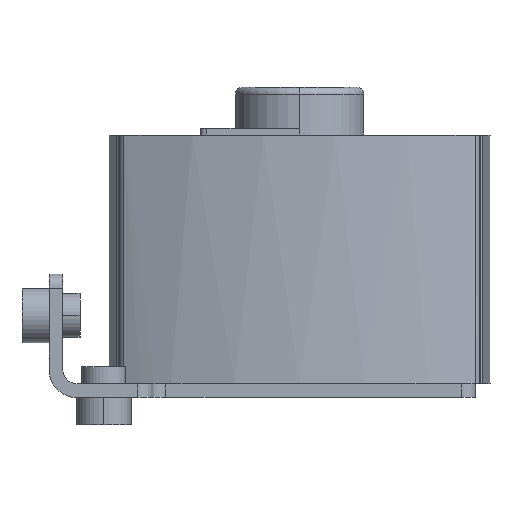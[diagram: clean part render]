
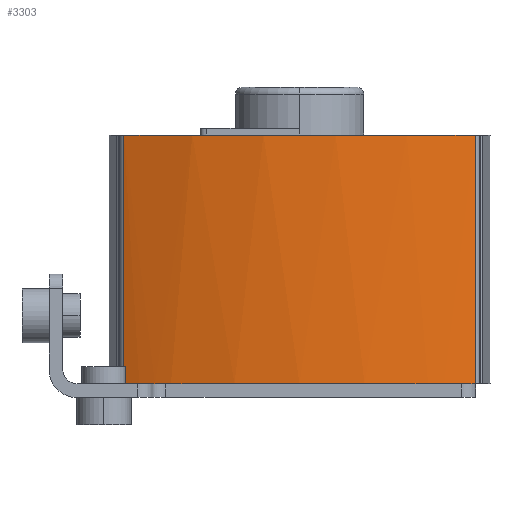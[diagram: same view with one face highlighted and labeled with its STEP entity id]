
A CAD part, left-side view. The second image highlights one B-rep face of the part: STEP entity #3303.
In plain terms, the highlighted cylindrical face has radius 102.446 mm (diameter 204.892 mm), a partial arc.
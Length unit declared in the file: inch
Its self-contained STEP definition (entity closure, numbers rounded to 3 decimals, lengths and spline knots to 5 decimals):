
#232=CARTESIAN_POINT('',(2.357,0.,-1.14065));
#233=DIRECTION('',(0.,0.,-1.));
#234=DIRECTION('',(-0.956,0.292,0.));
#235=AXIS2_PLACEMENT_3D('',#232,#233,#234);
#312=CARTESIAN_POINT('',(2.357,0.,-1.14065));
#313=DIRECTION('',(0.,0.,-1.));
#314=DIRECTION('',(-0.917,-0.399,0.));
#315=AXIS2_PLACEMENT_3D('',#312,#313,#314);
#717=DIRECTION('',(0.,0.,-1.));
#718=VECTOR('',#717,2.2813);
#719=CARTESIAN_POINT('',(-1.34094,1.61019,1.14065));
#720=LINE('',#719,#718);
#721=CARTESIAN_POINT('',(2.357,0.,-1.14065));
#722=DIRECTION('',(0.,0.,-1.));
#723=DIRECTION('',(-0.956,-0.292,0.));
#724=AXIS2_PLACEMENT_3D('',#721,#722,#723);
#726=CARTESIAN_POINT('',(2.357,0.,1.14065));
#727=DIRECTION('',(0.,0.,1.));
#728=DIRECTION('',(-0.917,0.399,0.));
#729=AXIS2_PLACEMENT_3D('',#726,#727,#728);
#731=DIRECTION('',(0.,0.,-1.));
#732=VECTOR('',#731,2.2813);
#733=CARTESIAN_POINT('',(-1.34094,-1.61019,1.14065));
#734=LINE('',#733,#732);
#1909=CARTESIAN_POINT('',(-1.34094,-1.61019,1.14065));
#1911=VERTEX_POINT('',#1909);
#1912=CARTESIAN_POINT('',(-1.34094,1.61019,1.14065));
#1913=VERTEX_POINT('',#1912);
#2117=CARTESIAN_POINT('',(-1.34094,-1.61019,-1.14065));
#2119=VERTEX_POINT('',#2117);
#2120=CARTESIAN_POINT('',(-1.5,-1.17943,-1.14065));
#2121=VERTEX_POINT('',#2120);
#2122=CARTESIAN_POINT('',(-1.5,1.17943,-1.14065));
#2123=CARTESIAN_POINT('',(-1.34094,1.61019,-1.14065));
#2124=VERTEX_POINT('',#2122);
#2125=VERTEX_POINT('',#2123);
#3289=CARTESIAN_POINT('',(2.357,0.,1.18628));
#3290=DIRECTION('',(0.,0.,-1.));
#3291=DIRECTION('',(-1.,0.,0.));
#3292=AXIS2_PLACEMENT_3D('',#3289,#3290,#3291);
#3293=CYLINDRICAL_SURFACE('',#3292,4.0333);
#3294=ORIENTED_EDGE('',*,*,#2383,.T.);
#3295=ORIENTED_EDGE('',*,*,#2536,.T.);
#3296=ORIENTED_EDGE('',*,*,#3284,.F.);
#3297=ORIENTED_EDGE('',*,*,#2263,.T.);
#3299=ORIENTED_EDGE('',*,*,#3298,.T.);
#3300=ORIENTED_EDGE('',*,*,#2603,.T.);
#3301=EDGE_LOOP('',(#3294,#3295,#3296,#3297,#3299,#3300));
#3302=FACE_OUTER_BOUND('',#3301,.F.);
#236=CIRCLE('',#235,4.0333);
#316=CIRCLE('',#315,4.0333);
#725=CIRCLE('',#724,4.0333);
#730=CIRCLE('',#729,4.0333);
#2263=EDGE_CURVE('',#1913,#1911,#730,.T.);
#2383=EDGE_CURVE('',#2121,#2124,#725,.T.);
#2536=EDGE_CURVE('',#2124,#2125,#236,.T.);
#2603=EDGE_CURVE('',#2119,#2121,#316,.T.);
#3284=EDGE_CURVE('',#1913,#2125,#720,.T.);
#3298=EDGE_CURVE('',#1911,#2119,#734,.T.);
#3303=ADVANCED_FACE('',(#3302),#3293,.T.);
